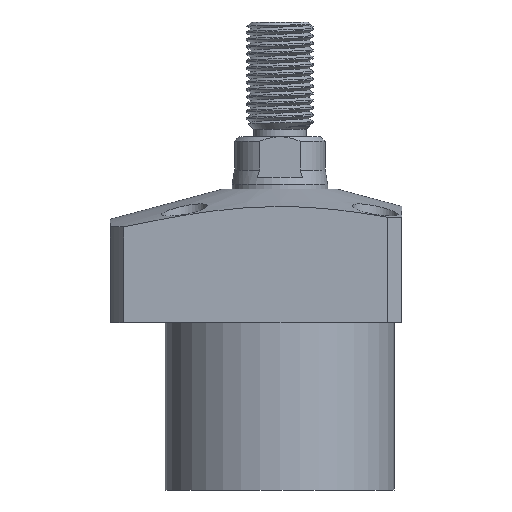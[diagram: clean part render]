
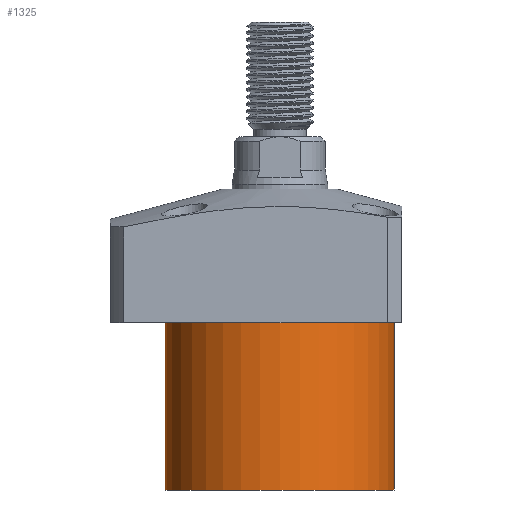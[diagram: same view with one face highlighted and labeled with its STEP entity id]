
A CAD part, front view. The second image highlights one B-rep face of the part: STEP entity #1325.
In plain terms, the highlighted cylindrical face has radius 24 mm (diameter 48 mm), a partial arc.
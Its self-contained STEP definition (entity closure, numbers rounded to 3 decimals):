
#245 = CARTESIAN_POINT ( 'NONE',  ( -24., 0., -14. ) ) ;
#348 = CARTESIAN_POINT ( 'NONE',  ( 0., 0., -49. ) ) ;
#541 = CIRCLE ( 'NONE', #1944, 24. ) ;
#563 = EDGE_LOOP ( 'NONE', ( #2204, #1959, #2354, #1469 ) ) ;
#583 = AXIS2_PLACEMENT_3D ( 'NONE', #2600, #4606, #3365 ) ;
#587 = VERTEX_POINT ( 'NONE', #3343 ) ;
#1146 = VERTEX_POINT ( 'NONE', #2585 ) ;
#1306 = DIRECTION ( 'NONE',  ( 0., 0., -1. ) ) ;
#1325 = ADVANCED_FACE ( 'NONE', ( #5053 ), #4989, .T. ) ;
#1446 = CARTESIAN_POINT ( 'NONE',  ( 24., 0., -14. ) ) ;
#1466 = VERTEX_POINT ( 'NONE', #245 ) ;
#1469 = ORIENTED_EDGE ( 'NONE', *, *, #3173, .T. ) ;
#1536 = CARTESIAN_POINT ( 'NONE',  ( -24., 0., -49. ) ) ;
#1742 = VECTOR ( 'NONE', #4796, 1000. ) ;
#1944 = AXIS2_PLACEMENT_3D ( 'NONE', #3299, #1306, #4099 ) ;
#1959 = ORIENTED_EDGE ( 'NONE', *, *, #2956, .F. ) ;
#2032 = EDGE_CURVE ( 'NONE', #587, #1466, #4540, .T. ) ;
#2050 = AXIS2_PLACEMENT_3D ( 'NONE', #348, #4290, #3118 ) ;
#2166 = LINE ( 'NONE', #3233, #1742 ) ;
#2204 = ORIENTED_EDGE ( 'NONE', *, *, #2032, .F. ) ;
#2354 = ORIENTED_EDGE ( 'NONE', *, *, #4999, .T. ) ;
#2585 = CARTESIAN_POINT ( 'NONE',  ( 24., 0., -49. ) ) ;
#2600 = CARTESIAN_POINT ( 'NONE',  ( 0., 0., -49. ) ) ;
#2956 = EDGE_CURVE ( 'NONE', #1146, #587, #3649, .T. ) ;
#3118 = DIRECTION ( 'NONE',  ( -1., 0., 0. ) ) ;
#3173 = EDGE_CURVE ( 'NONE', #3769, #1466, #541, .T. ) ;
#3233 = CARTESIAN_POINT ( 'NONE',  ( 24., 0., -49. ) ) ;
#3299 = CARTESIAN_POINT ( 'NONE',  ( 0., 0., -14. ) ) ;
#3343 = CARTESIAN_POINT ( 'NONE',  ( -24., 0., -49. ) ) ;
#3365 = DIRECTION ( 'NONE',  ( 1., 0., 0. ) ) ;
#3649 = CIRCLE ( 'NONE', #2050, 24. ) ;
#3769 = VERTEX_POINT ( 'NONE', #1446 ) ;
#3901 = VECTOR ( 'NONE', #4318, 1000. ) ;
#4099 = DIRECTION ( 'NONE',  ( 1., 0., 0. ) ) ;
#4290 = DIRECTION ( 'NONE',  ( 0., 0., -1. ) ) ;
#4318 = DIRECTION ( 'NONE',  ( 0., 0., 1. ) ) ;
#4540 = LINE ( 'NONE', #1536, #3901 ) ;
#4606 = DIRECTION ( 'NONE',  ( 0., 0., 1. ) ) ;
#4796 = DIRECTION ( 'NONE',  ( 0., 0., 1. ) ) ;
#4989 = CYLINDRICAL_SURFACE ( 'NONE', #583, 24. ) ;
#4999 = EDGE_CURVE ( 'NONE', #1146, #3769, #2166, .T. ) ;
#5053 = FACE_OUTER_BOUND ( 'NONE', #563, .T. ) ;
